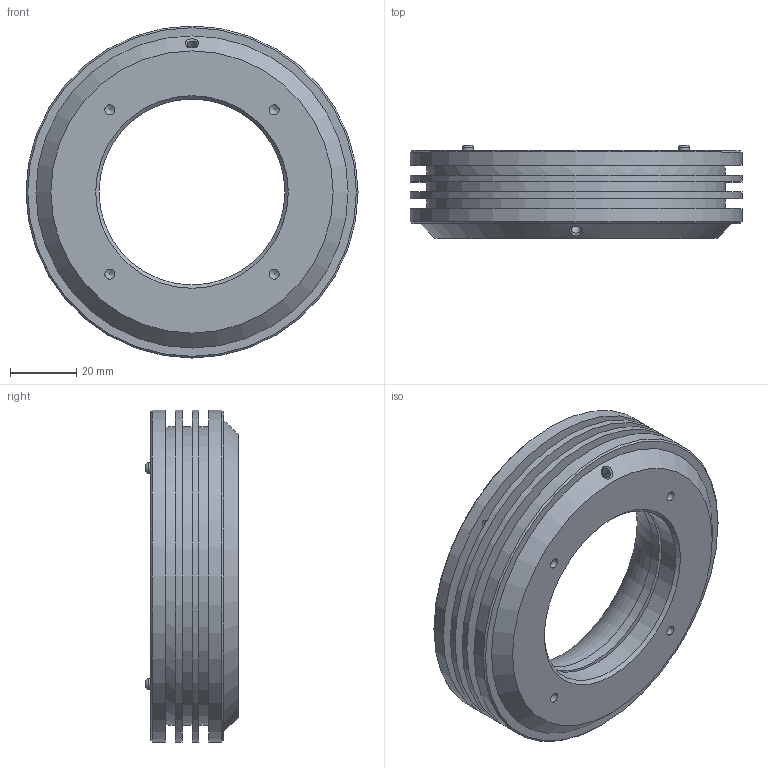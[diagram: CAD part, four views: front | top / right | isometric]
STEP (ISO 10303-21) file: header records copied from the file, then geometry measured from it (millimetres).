
FILE_DESCRIPTION((''),'2;1');
FILE_NAME('D:\上海创波-20181114\2-三维图纸\1-常用光源\WLDR系列\WLDR2系列-xxAGxx\WLDR2-M100-0000-USER.stp','2020-01-13T09:08:57',('Administrator'),(''),'Autodesk Inventor 2010','Autodesk Inventor 2010','');
FILE_SCHEMA(('AUTOMOTIVE_DESIGN { 1 0 10303 214 1 1 1 1 }'));
Length unit declared in the file: millimetre
Products named in the file (1): 零件5
Bounding box: 100 x 28 x 100 mm (x, y, z)
Volume: 63112 mm3; surface area: 48668.5 mm2
Topology: 1 solids, 1 shells, 163 faces, 343 edges, 204 vertices
Faces by surface type: plane 108, cylinder 23, bspline 19, cone 8, torus 5
Full cylindrical faces by diameter (mm): 2 x4, 3 x1, 3.2 x4, 56 x2, 61 x1, 64 x1, 71 x1, 87 x1, 90 x3, 97 x1, 100 x4
Entity records: 4371 total; most frequent: CARTESIAN_POINT 1033, DIRECTION 668, ORIENTED_EDGE 528, EDGE_CURVE 264, AXIS2_PLACEMENT_3D 262, EDGE_LOOP 251, VERTEX_POINT 179, STYLED_ITEM 164
